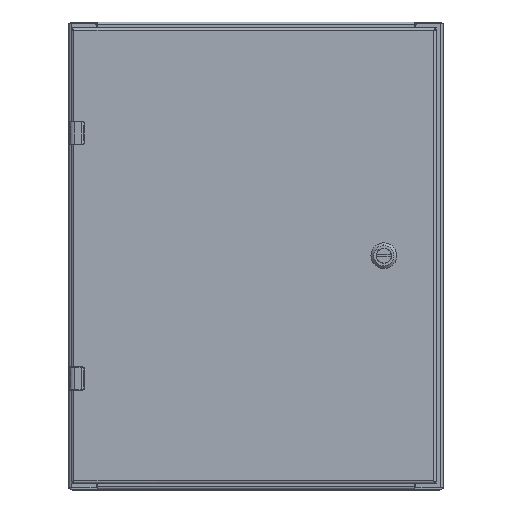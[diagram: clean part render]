
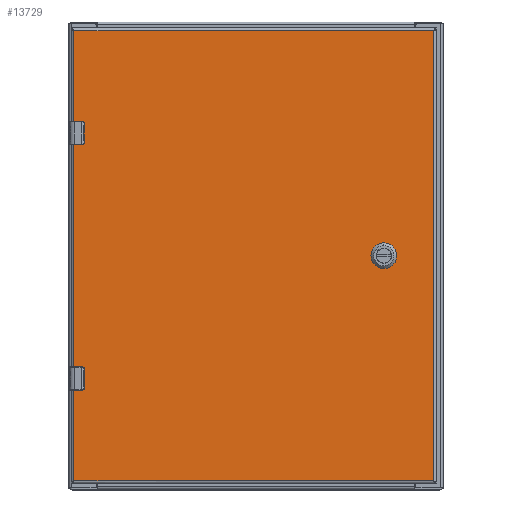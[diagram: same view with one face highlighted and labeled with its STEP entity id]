
A CAD part, top view. The second image highlights one B-rep face of the part: STEP entity #13729.
In plain terms, the highlighted planar face has unit normal (0, 0, 1).
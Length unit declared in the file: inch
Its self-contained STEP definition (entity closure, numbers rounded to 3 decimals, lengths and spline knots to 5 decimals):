
#10394=CARTESIAN_POINT('',(5.5625,0.,0.));
#10395=DIRECTION('',(0.,0.,1.));
#10396=DIRECTION('',(-0.448,0.894,0.));
#10397=AXIS2_PLACEMENT_3D('',#10394,#10395,#10396);
#10402=DIRECTION('',(0.,-1.,0.));
#10403=VECTOR('',#10402,0.39715);
#10404=CARTESIAN_POINT('',(5.1665,0.19858,0.));
#10405=LINE('',#10404,#10403);
#10409=CARTESIAN_POINT('',(5.5625,0.,0.));
#10410=DIRECTION('',(0.,0.,1.));
#10411=DIRECTION('',(-0.894,-0.448,0.));
#10412=AXIS2_PLACEMENT_3D('',#10409,#10410,#10411);
#10417=DIRECTION('',(1.,0.,0.));
#10418=VECTOR('',#10417,0.39715);
#10419=CARTESIAN_POINT('',(5.36392,-0.396,0.));
#10420=LINE('',#10419,#10418);
#10424=CARTESIAN_POINT('',(5.5625,0.,0.));
#10425=DIRECTION('',(0.,0.,1.));
#10426=DIRECTION('',(0.448,-0.894,0.));
#10427=AXIS2_PLACEMENT_3D('',#10424,#10425,#10426);
#10432=DIRECTION('',(0.,1.,0.));
#10433=VECTOR('',#10432,0.39715);
#10434=CARTESIAN_POINT('',(5.9585,-0.19858,0.));
#10435=LINE('',#10434,#10433);
#10439=CARTESIAN_POINT('',(5.5625,0.,0.));
#10440=DIRECTION('',(0.,0.,1.));
#10441=DIRECTION('',(0.894,0.448,0.));
#10442=AXIS2_PLACEMENT_3D('',#10439,#10440,#10441);
#10447=DIRECTION('',(-1.,0.,0.));
#10448=VECTOR('',#10447,0.39715);
#10449=CARTESIAN_POINT('',(5.76108,0.396,0.));
#10450=LINE('',#10449,#10448);
#10454=DIRECTION('',(1.,0.,0.));
#10455=VECTOR('',#10454,0.3629);
#10456=CARTESIAN_POINT('',(-7.6955,-5.595,0.));
#10457=LINE('',#10456,#10455);
#10461=DIRECTION('',(0.,1.,0.));
#10462=VECTOR('',#10461,0.63);
#10463=CARTESIAN_POINT('',(-7.3026,-5.565,0.));
#10464=LINE('',#10463,#10462);
#10468=DIRECTION('',(1.,0.,0.));
#10469=VECTOR('',#10468,0.3629);
#10470=CARTESIAN_POINT('',(-7.6955,-4.905,0.));
#10471=LINE('',#10470,#10469);
#10475=DIRECTION('',(1.,0.,0.));
#10476=VECTOR('',#10475,0.3629);
#10477=CARTESIAN_POINT('',(-7.6955,4.905,0.));
#10478=LINE('',#10477,#10476);
#10482=DIRECTION('',(0.,1.,0.));
#10483=VECTOR('',#10482,0.63);
#10484=CARTESIAN_POINT('',(-7.3026,4.935,0.));
#10485=LINE('',#10484,#10483);
#10489=DIRECTION('',(1.,0.,0.));
#10490=VECTOR('',#10489,0.3629);
#10491=CARTESIAN_POINT('',(-7.6955,5.595,0.));
#10492=LINE('',#10491,#10490);
#11017=DIRECTION('',(0.,-1.,0.));
#11018=VECTOR('',#11017,19.266);
#11019=CARTESIAN_POINT('',(7.6955,9.633,0.));
#11020=LINE('',#11019,#11018);
#11094=DIRECTION('',(1.,0.,0.));
#11095=VECTOR('',#11094,15.391);
#11096=CARTESIAN_POINT('',(-7.6955,9.633,0.));
#11097=LINE('',#11096,#11095);
#11230=DIRECTION('',(0.,1.,0.));
#11231=VECTOR('',#11230,9.81);
#11232=CARTESIAN_POINT('',(-7.6955,-4.905,0.));
#11233=LINE('',#11232,#11231);
#11237=CARTESIAN_POINT('',(-7.6955,9.633,0.));
#11279=DIRECTION('',(0.,1.,0.));
#11280=VECTOR('',#11279,4.038);
#11281=CARTESIAN_POINT('',(-7.6955,5.595,0.));
#11282=LINE('',#11281,#11280);
#11358=DIRECTION('',(0.,1.,0.));
#11359=VECTOR('',#11358,4.038);
#11360=CARTESIAN_POINT('',(-7.6955,-9.633,0.));
#11361=LINE('',#11360,#11359);
#11379=CARTESIAN_POINT('',(-7.3326,-4.935,0.));
#11380=DIRECTION('',(0.,0.,-1.));
#11381=DIRECTION('',(0.,1.,0.));
#11382=AXIS2_PLACEMENT_3D('',#11379,#11380,#11381);
#11409=CARTESIAN_POINT('',(-7.3326,-5.565,0.));
#11410=DIRECTION('',(0.,0.,-1.));
#11411=DIRECTION('',(1.,0.,0.));
#11412=AXIS2_PLACEMENT_3D('',#11409,#11410,#11411);
#11751=DIRECTION('',(-1.,0.,0.));
#11752=VECTOR('',#11751,15.391);
#11753=CARTESIAN_POINT('',(7.6955,-9.633,0.));
#11754=LINE('',#11753,#11752);
#12110=CARTESIAN_POINT('',(-7.3326,5.565,0.));
#12111=DIRECTION('',(0.,0.,-1.));
#12112=DIRECTION('',(0.,1.,0.));
#12113=AXIS2_PLACEMENT_3D('',#12110,#12111,#12112);
#12140=CARTESIAN_POINT('',(-7.3326,4.935,0.));
#12141=DIRECTION('',(0.,0.,-1.));
#12142=DIRECTION('',(1.,0.,0.));
#12143=AXIS2_PLACEMENT_3D('',#12140,#12141,#12142);
#13266=CARTESIAN_POINT('',(7.6955,9.633,0.));
#13267=CARTESIAN_POINT('',(7.6955,-9.633,0.));
#13268=VERTEX_POINT('',#13266);
#13269=VERTEX_POINT('',#13267);
#13354=CARTESIAN_POINT('',(5.36392,0.396,0.));
#13355=CARTESIAN_POINT('',(5.1665,0.19858,0.));
#13356=VERTEX_POINT('',#13354);
#13357=VERTEX_POINT('',#13355);
#13358=CARTESIAN_POINT('',(5.1665,-0.19858,0.));
#13359=VERTEX_POINT('',#13358);
#13360=CARTESIAN_POINT('',(5.36392,-0.396,0.));
#13361=VERTEX_POINT('',#13360);
#13362=CARTESIAN_POINT('',(5.76108,-0.396,0.));
#13363=VERTEX_POINT('',#13362);
#13364=CARTESIAN_POINT('',(5.9585,-0.19858,0.));
#13365=VERTEX_POINT('',#13364);
#13366=CARTESIAN_POINT('',(5.9585,0.19858,0.));
#13367=VERTEX_POINT('',#13366);
#13368=CARTESIAN_POINT('',(5.76108,0.396,0.));
#13369=VERTEX_POINT('',#13368);
#13416=VERTEX_POINT('',#11237);
#13421=CARTESIAN_POINT('',(-7.6955,-9.633,0.));
#13423=VERTEX_POINT('',#13421);
#13512=CARTESIAN_POINT('',(-7.6955,5.595,0.));
#13514=VERTEX_POINT('',#13512);
#13516=CARTESIAN_POINT('',(-7.6955,4.905,0.));
#13518=VERTEX_POINT('',#13516);
#13524=CARTESIAN_POINT('',(-7.3326,5.595,0.));
#13525=VERTEX_POINT('',#13524);
#13526=CARTESIAN_POINT('',(-7.3026,4.935,0.));
#13527=CARTESIAN_POINT('',(-7.3026,5.565,0.));
#13528=VERTEX_POINT('',#13526);
#13529=VERTEX_POINT('',#13527);
#13530=CARTESIAN_POINT('',(-7.3326,4.905,0.));
#13531=VERTEX_POINT('',#13530);
#13560=CARTESIAN_POINT('',(-7.6955,-4.905,0.));
#13562=VERTEX_POINT('',#13560);
#13564=CARTESIAN_POINT('',(-7.6955,-5.595,0.));
#13566=VERTEX_POINT('',#13564);
#13576=CARTESIAN_POINT('',(-7.3326,-4.905,0.));
#13578=VERTEX_POINT('',#13576);
#13580=CARTESIAN_POINT('',(-7.3026,-4.935,0.));
#13582=VERTEX_POINT('',#13580);
#13584=CARTESIAN_POINT('',(-7.3026,-5.565,0.));
#13586=VERTEX_POINT('',#13584);
#13588=CARTESIAN_POINT('',(-7.3326,-5.595,0.));
#13590=VERTEX_POINT('',#13588);
#13672=CARTESIAN_POINT('',(0.,0.,0.));
#13673=DIRECTION('',(0.,0.,-1.));
#13674=DIRECTION('',(1.,0.,0.));
#13675=AXIS2_PLACEMENT_3D('',#13672,#13673,#13674);
#13676=PLANE('',#13675);
#13678=ORIENTED_EDGE('',*,*,#13677,.T.);
#13680=ORIENTED_EDGE('',*,*,#13679,.T.);
#13682=ORIENTED_EDGE('',*,*,#13681,.T.);
#13684=ORIENTED_EDGE('',*,*,#13683,.F.);
#13686=ORIENTED_EDGE('',*,*,#13685,.T.);
#13688=ORIENTED_EDGE('',*,*,#13687,.F.);
#13690=ORIENTED_EDGE('',*,*,#13689,.F.);
#13692=ORIENTED_EDGE('',*,*,#13691,.T.);
#13694=ORIENTED_EDGE('',*,*,#13693,.T.);
#13696=ORIENTED_EDGE('',*,*,#13695,.F.);
#13698=ORIENTED_EDGE('',*,*,#13697,.T.);
#13700=ORIENTED_EDGE('',*,*,#13699,.F.);
#13702=ORIENTED_EDGE('',*,*,#13701,.F.);
#13704=ORIENTED_EDGE('',*,*,#13703,.T.);
#13706=ORIENTED_EDGE('',*,*,#13705,.T.);
#13708=ORIENTED_EDGE('',*,*,#13707,.T.);
#13709=EDGE_LOOP('',(#13678,#13680,#13682,#13684,#13686,#13688,#13690,#13692,
#13694,#13696,#13698,#13700,#13702,#13704,#13706,#13708));
#13710=FACE_OUTER_BOUND('',#13709,.F.);
#13712=ORIENTED_EDGE('',*,*,#13711,.T.);
#13714=ORIENTED_EDGE('',*,*,#13713,.T.);
#13716=ORIENTED_EDGE('',*,*,#13715,.T.);
#13718=ORIENTED_EDGE('',*,*,#13717,.T.);
#13720=ORIENTED_EDGE('',*,*,#13719,.T.);
#13722=ORIENTED_EDGE('',*,*,#13721,.T.);
#13724=ORIENTED_EDGE('',*,*,#13723,.T.);
#13726=ORIENTED_EDGE('',*,*,#13725,.T.);
#13727=EDGE_LOOP('',(#13712,#13714,#13716,#13718,#13720,#13722,#13724,#13726));
#13728=FACE_BOUND('',#13727,.F.);
#10398=CIRCLE('',#10397,0.443);
#10413=CIRCLE('',#10412,0.443);
#10428=CIRCLE('',#10427,0.443);
#10443=CIRCLE('',#10442,0.443);
#11383=CIRCLE('',#11382,0.03);
#11413=CIRCLE('',#11412,0.03);
#12114=CIRCLE('',#12113,0.03);
#12144=CIRCLE('',#12143,0.03);
#13677=EDGE_CURVE('',#13269,#13423,#11754,.T.);
#13679=EDGE_CURVE('',#13423,#13566,#11361,.T.);
#13681=EDGE_CURVE('',#13566,#13590,#10457,.T.);
#13683=EDGE_CURVE('',#13586,#13590,#11413,.T.);
#13685=EDGE_CURVE('',#13586,#13582,#10464,.T.);
#13687=EDGE_CURVE('',#13578,#13582,#11383,.T.);
#13689=EDGE_CURVE('',#13562,#13578,#10471,.T.);
#13691=EDGE_CURVE('',#13562,#13518,#11233,.T.);
#13693=EDGE_CURVE('',#13518,#13531,#10478,.T.);
#13695=EDGE_CURVE('',#13528,#13531,#12144,.T.);
#13697=EDGE_CURVE('',#13528,#13529,#10485,.T.);
#13699=EDGE_CURVE('',#13525,#13529,#12114,.T.);
#13701=EDGE_CURVE('',#13514,#13525,#10492,.T.);
#13703=EDGE_CURVE('',#13514,#13416,#11282,.T.);
#13705=EDGE_CURVE('',#13416,#13268,#11097,.T.);
#13707=EDGE_CURVE('',#13268,#13269,#11020,.T.);
#13711=EDGE_CURVE('',#13356,#13357,#10398,.T.);
#13713=EDGE_CURVE('',#13357,#13359,#10405,.T.);
#13715=EDGE_CURVE('',#13359,#13361,#10413,.T.);
#13717=EDGE_CURVE('',#13361,#13363,#10420,.T.);
#13719=EDGE_CURVE('',#13363,#13365,#10428,.T.);
#13721=EDGE_CURVE('',#13365,#13367,#10435,.T.);
#13723=EDGE_CURVE('',#13367,#13369,#10443,.T.);
#13725=EDGE_CURVE('',#13369,#13356,#10450,.T.);
#13729=ADVANCED_FACE('',(#13710,#13728),#13676,.F.);
